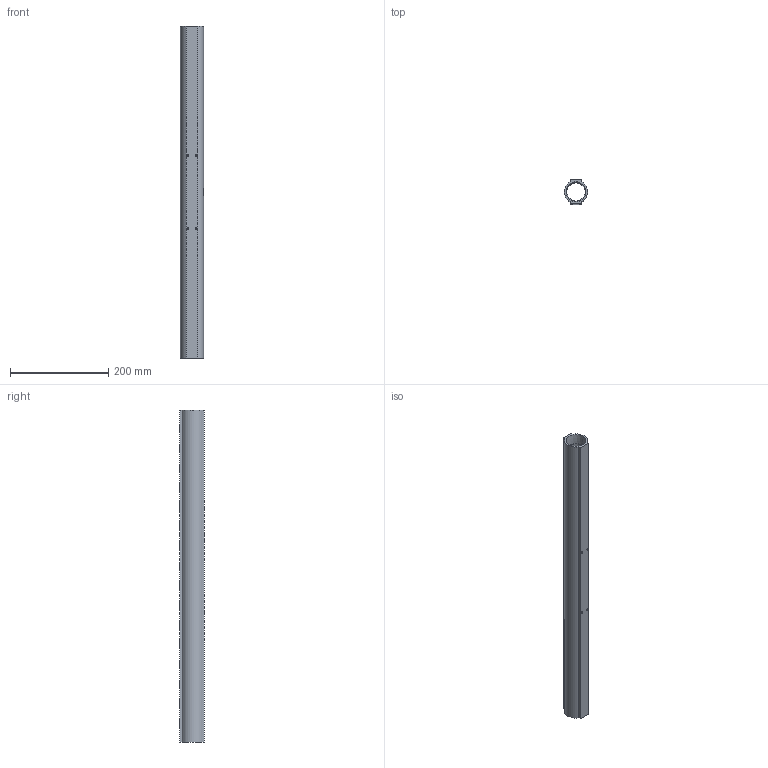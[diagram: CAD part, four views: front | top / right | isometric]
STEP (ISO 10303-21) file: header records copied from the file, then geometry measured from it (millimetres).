
FILE_DESCRIPTION (( 'STEP AP214' ), '1' );
FILE_NAME ('BWM16620R.STEP', '2022-03-15T05:42:47', ( '' ), ( '' ), 'SwSTEP 2.0', 'SolidWorks 2020', '' );
FILE_SCHEMA (( 'AUTOMOTIVE_DESIGN' ));
Length unit declared in the file: millimetre
Products named in the file (1): BWM16620R
Bounding box: 47 x 50 x 676 mm (x, y, z)
Volume: 463402.6 mm3; surface area: 192834.7 mm2
Topology: 1 solids, 1 shells, 239 faces, 646 edges, 424 vertices
Faces by surface type: plane 101, bspline 52, cone 44, cylinder 42
Entity records: 14031 total; most frequent: CARTESIAN_POINT 6338, ORIENTED_EDGE 1276, DIRECTION 854, EDGE_CURVE 638, VERTEX_POINT 424, LINE 306, VECTOR 306, EDGE_LOOP 296
